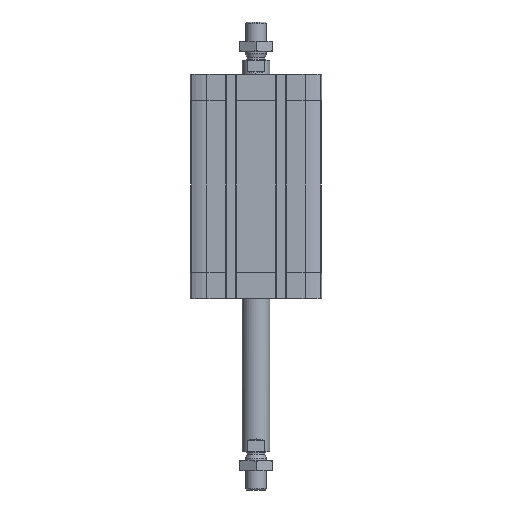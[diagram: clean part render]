
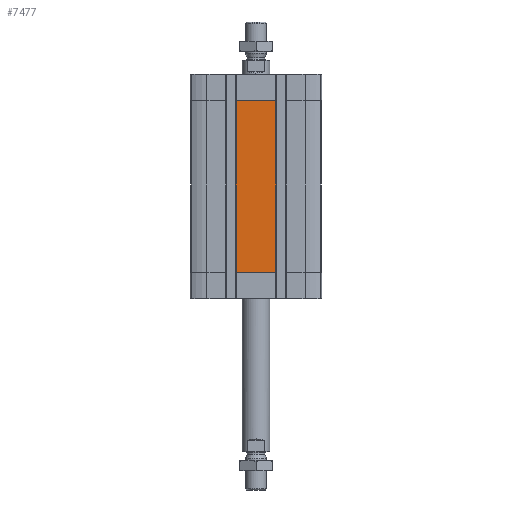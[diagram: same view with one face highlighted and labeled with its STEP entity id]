
A CAD part, front view. The second image highlights one B-rep face of the part: STEP entity #7477.
In plain terms, the highlighted planar face has unit normal (0, -1, 0).
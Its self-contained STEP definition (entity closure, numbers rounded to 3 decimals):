
#817 = VERTEX_POINT ( 'NONE', #10115 ) ;
#1209 = DIRECTION ( 'NONE',  ( 0., 0., 1. ) ) ;
#1653 = VECTOR ( 'NONE', #1209, 1000. ) ;
#2629 = DIRECTION ( 'NONE',  ( 0., 0., -1. ) ) ;
#3248 = EDGE_CURVE ( 'NONE', #8089, #4868, #13165, .T. ) ;
#4414 = CARTESIAN_POINT ( 'NONE',  ( 11.4, -37.5, -15. ) ) ;
#4868 = VERTEX_POINT ( 'NONE', #10356 ) ;
#4880 = CARTESIAN_POINT ( 'NONE',  ( -11.4, -37.5, -114. ) ) ;
#5312 = EDGE_CURVE ( 'NONE', #817, #14241, #6759, .T. ) ;
#5329 = EDGE_CURVE ( 'NONE', #4868, #14241, #8166, .T. ) ;
#5549 = CARTESIAN_POINT ( 'NONE',  ( 11.4, -37.5, -114. ) ) ;
#5881 = ORIENTED_EDGE ( 'NONE', *, *, #5312, .T. ) ;
#6369 = CARTESIAN_POINT ( 'NONE',  ( -11.4, -37.5, -114. ) ) ;
#6555 = FACE_OUTER_BOUND ( 'NONE', #12471, .T. ) ;
#6717 = LINE ( 'NONE', #14741, #14418 ) ;
#6759 = LINE ( 'NONE', #5549, #12803 ) ;
#6828 = ORIENTED_EDGE ( 'NONE', *, *, #13862, .T. ) ;
#7477 = ADVANCED_FACE ( 'NONE', ( #6555 ), #9436, .T. ) ;
#8089 = VERTEX_POINT ( 'NONE', #4880 ) ;
#8166 = LINE ( 'NONE', #8353, #8345 ) ;
#8210 = AXIS2_PLACEMENT_3D ( 'NONE', #9260, #13649, #2629 ) ;
#8345 = VECTOR ( 'NONE', #14968, 1000. ) ;
#8353 = CARTESIAN_POINT ( 'NONE',  ( -11.4, -37.5, -15. ) ) ;
#9260 = CARTESIAN_POINT ( 'NONE',  ( -11.4, -37.5, -114. ) ) ;
#9436 = PLANE ( 'NONE',  #8210 ) ;
#10115 = CARTESIAN_POINT ( 'NONE',  ( 11.4, -37.5, -114. ) ) ;
#10356 = CARTESIAN_POINT ( 'NONE',  ( -11.4, -37.5, -15. ) ) ;
#10985 = DIRECTION ( 'NONE',  ( 1., 0., 0. ) ) ;
#12090 = ORIENTED_EDGE ( 'NONE', *, *, #5329, .F. ) ;
#12471 = EDGE_LOOP ( 'NONE', ( #12090, #13573, #6828, #5881 ) ) ;
#12803 = VECTOR ( 'NONE', #16365, 1000. ) ;
#13165 = LINE ( 'NONE', #6369, #1653 ) ;
#13573 = ORIENTED_EDGE ( 'NONE', *, *, #3248, .F. ) ;
#13649 = DIRECTION ( 'NONE',  ( 0., -1., 0. ) ) ;
#13862 = EDGE_CURVE ( 'NONE', #8089, #817, #6717, .T. ) ;
#14241 = VERTEX_POINT ( 'NONE', #4414 ) ;
#14418 = VECTOR ( 'NONE', #10985, 1000. ) ;
#14741 = CARTESIAN_POINT ( 'NONE',  ( -11.4, -37.5, -114. ) ) ;
#14968 = DIRECTION ( 'NONE',  ( 1., 0., 0. ) ) ;
#16365 = DIRECTION ( 'NONE',  ( 0., 0., 1. ) ) ;
